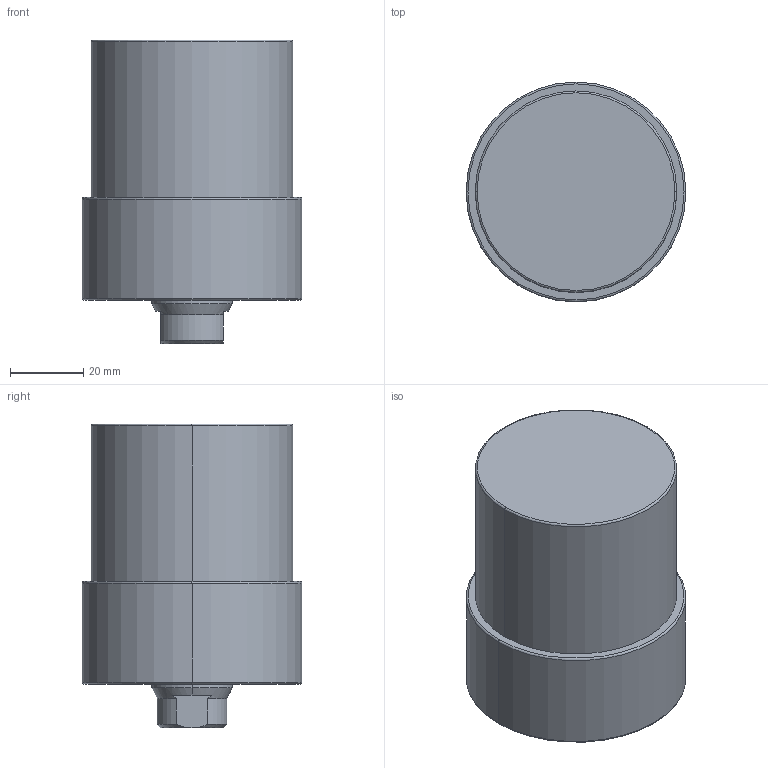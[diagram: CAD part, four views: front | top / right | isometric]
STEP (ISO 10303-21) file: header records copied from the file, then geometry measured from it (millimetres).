
FILE_DESCRIPTION (( 'STEP AP203' ), '1' );
FILE_NAME ('CLLU055-CA-030.STEP', '2017-05-12T11:05:51', ( '' ), ( '' ), 'SwSTEP 2.0', 'SolidWorks 2015', '' );
FILE_SCHEMA (( 'CONFIG_CONTROL_DESIGN' ));
Length unit declared in the file: millimetre
Products named in the file (1): CLLU055-CA-030
Bounding box: 60 x 60 x 83 mm (x, y, z)
Volume: 181661.7 mm3; surface area: 20752.5 mm2
Topology: 1 solids, 1 shells, 62 faces, 138 edges, 77 vertices
Faces by surface type: cone 24, cylinder 22, plane 10, torus 6
Entity records: 1745 total; most frequent: DIRECTION 318, CARTESIAN_POINT 308, ORIENTED_EDGE 256, AXIS2_PLACEMENT_3D 135, EDGE_CURVE 128, VERTEX_POINT 77, CIRCLE 72, EDGE_LOOP 71
